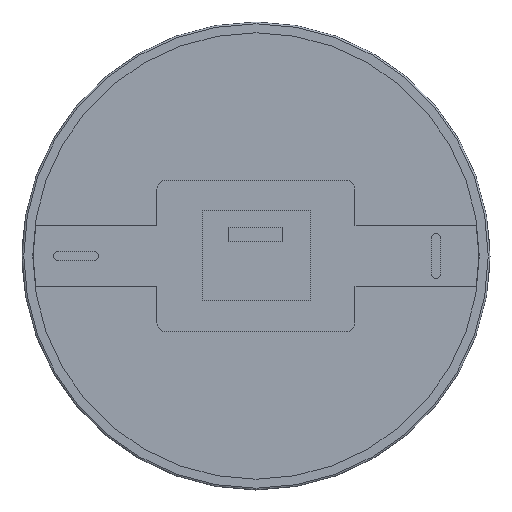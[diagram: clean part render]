
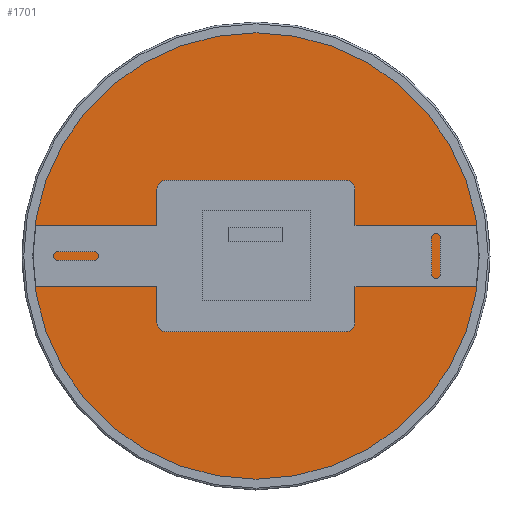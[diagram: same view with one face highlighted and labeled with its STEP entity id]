
A CAD part, front view. The second image highlights one B-rep face of the part: STEP entity #1701.
In plain terms, the highlighted planar face has unit normal (0, -1, 0).
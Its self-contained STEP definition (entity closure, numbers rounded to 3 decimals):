
#59=FACE_BOUND('',#402,.T.);
#123=PLANE('',#1865);
#298=FACE_OUTER_BOUND('',#401,.T.);
#401=EDGE_LOOP('',(#1583));
#402=EDGE_LOOP('',(#1584,#1585,#1586,#1587));
#446=CIRCLE('',#1866,124.);
#557=LINE('',#2749,#716);
#560=LINE('',#2754,#719);
#604=LINE('',#2914,#763);
#606=LINE('',#2917,#765);
#716=VECTOR('',#2165,10.);
#719=VECTOR('',#2170,10.);
#763=VECTOR('',#2300,10.);
#765=VECTOR('',#2304,10.);
#880=VERTEX_POINT('',#2747);
#881=VERTEX_POINT('',#2748);
#882=VERTEX_POINT('',#2753);
#916=VERTEX_POINT('',#2913);
#917=VERTEX_POINT('',#2919);
#1076=EDGE_CURVE('',#880,#881,#557,.T.);
#1079=EDGE_CURVE('',#882,#880,#560,.T.);
#1138=EDGE_CURVE('',#916,#882,#604,.T.);
#1140=EDGE_CURVE('',#881,#916,#606,.T.);
#1141=EDGE_CURVE('',#917,#917,#446,.T.);
#1583=ORIENTED_EDGE('',*,*,#1141,.F.);
#1584=ORIENTED_EDGE('',*,*,#1138,.F.);
#1585=ORIENTED_EDGE('',*,*,#1140,.F.);
#1586=ORIENTED_EDGE('',*,*,#1076,.F.);
#1587=ORIENTED_EDGE('',*,*,#1079,.F.);
#1701=ADVANCED_FACE('',(#298,#59),#123,.T.);
#1865=AXIS2_PLACEMENT_3D('',#2918,#2305,#2306);
#1866=AXIS2_PLACEMENT_3D('',#2920,#2307,#2308);
#2165=DIRECTION('',(-1.,0.,0.));
#2170=DIRECTION('',(0.,0.,1.));
#2300=DIRECTION('',(1.,0.,0.));
#2304=DIRECTION('',(0.,0.,-1.));
#2305=DIRECTION('center_axis',(0.,-1.,0.));
#2306=DIRECTION('ref_axis',(0.,0.,-1.));
#2307=DIRECTION('center_axis',(0.,1.,0.));
#2308=DIRECTION('ref_axis',(1.,0.,0.));
#2747=CARTESIAN_POINT('',(30.,4.,25.));
#2748=CARTESIAN_POINT('',(-30.,4.,25.));
#2749=CARTESIAN_POINT('',(-15.,4.,25.));
#2753=CARTESIAN_POINT('',(30.,4.,-25.));
#2754=CARTESIAN_POINT('',(30.,4.,12.5));
#2913=CARTESIAN_POINT('',(-30.,4.,-25.));
#2914=CARTESIAN_POINT('',(15.,4.,-25.));
#2917=CARTESIAN_POINT('',(-30.,4.,-12.5));
#2918=CARTESIAN_POINT('Origin',(0.,4.,0.));
#2919=CARTESIAN_POINT('',(-124.,4.,0.));
#2920=CARTESIAN_POINT('Origin',(0.,4.,0.));
